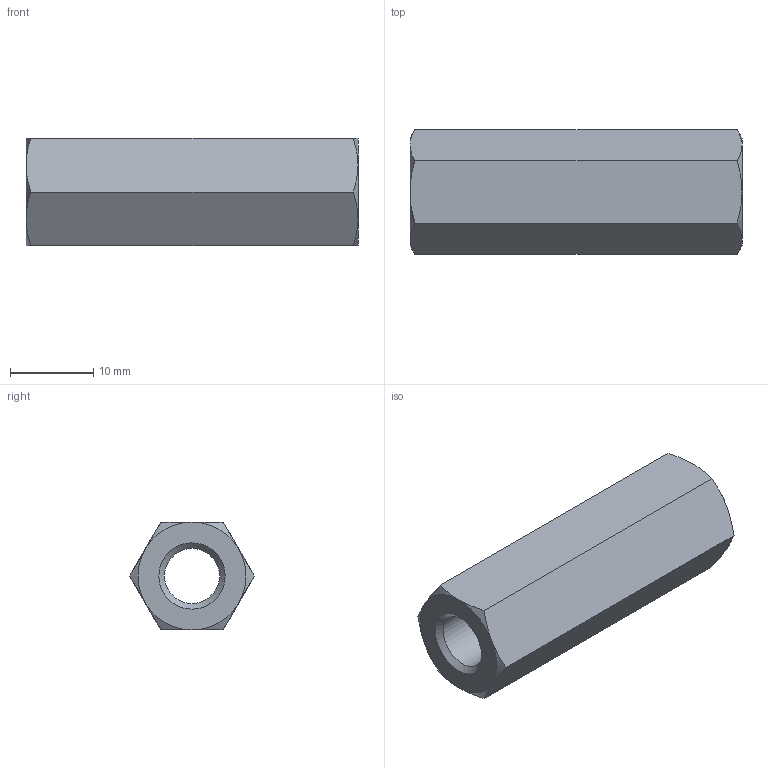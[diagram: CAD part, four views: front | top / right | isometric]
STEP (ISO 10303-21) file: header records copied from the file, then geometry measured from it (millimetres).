
FILE_DESCRIPTION( ( 'STEP AP203' ), '1' );
FILE_NAME( 'C:/Temp/Ganter_Step_05_03_2020/data/3_2/gn6220/gn6220_st/Spacer GN 6220-ST-M8-40-A.stp', '2020-03-13T05:42:33', ( 'License CC BY-ND 4.0' ), ( 'CADENAS' ), ' ', 'PARTsolutions', ' ' );
FILE_SCHEMA( ( 'CONFIG_CONTROL_DESIGN' ) );
Length unit declared in the file: millimetre
Products named in the file (1): _Spacer GN 6220-ST-M8-40-A
Bounding box: 40 x 15.01 x 13 mm (x, y, z)
Volume: 4451.3 mm3; surface area: 2830.9 mm2
Topology: 1 solids, 1 shells, 23 faces, 49 edges, 28 vertices
Faces by surface type: cone 14, plane 8, cylinder 1
Full cylindrical faces by diameter (mm): 6.647 x1
Entity records: 728 total; most frequent: CARTESIAN_POINT 234, ORIENTED_EDGE 92, DIRECTION 86, EDGE_CURVE 46, AXIS2_PLACEMENT_3D 40, EDGE_LOOP 28, VERTEX_POINT 28, FACE_OUTER_BOUND 24
